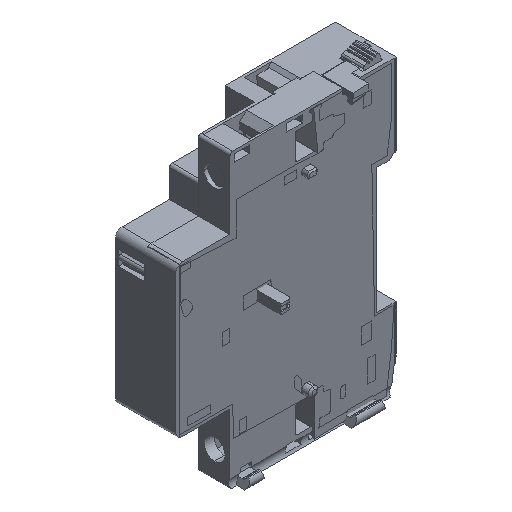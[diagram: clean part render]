
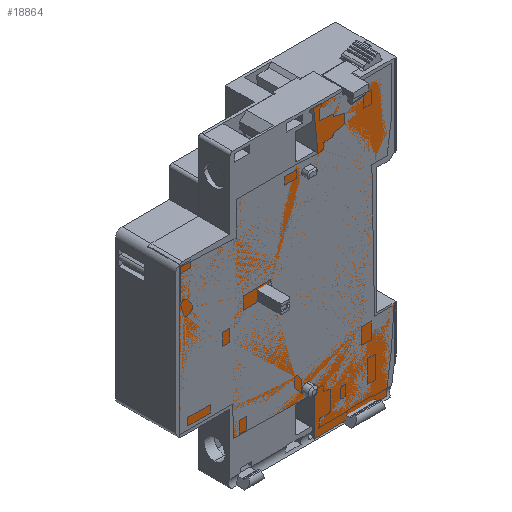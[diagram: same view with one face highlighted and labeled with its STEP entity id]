
A CAD part, isometric view. The second image highlights one B-rep face of the part: STEP entity #18864.
In plain terms, the highlighted planar face has unit normal (0, -1, 0).
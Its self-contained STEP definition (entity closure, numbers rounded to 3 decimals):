
#15240=DIRECTION('',(0.,0.,1.));
#15241=VECTOR('',#15240,9.988);
#15242=CARTESIAN_POINT('',(-17.,0.,17.612));
#15243=LINE('',#15242,#15241);
#15244=DIRECTION('',(-1.,0.,0.));
#15245=VECTOR('',#15244,17.5);
#15246=CARTESIAN_POINT('',(0.5,0.,27.6));
#15247=LINE('',#15246,#15245);
#15248=DIRECTION('',(0.999,0.,-0.043));
#15249=VECTOR('',#15248,6.907);
#15250=CARTESIAN_POINT('',(0.5,0.,27.6));
#15251=LINE('',#15250,#15249);
#15252=DIRECTION('',(0.106,0.,-0.994));
#15253=VECTOR('',#15252,12.269);
#15254=CARTESIAN_POINT('',(6.1,0.,39.5));
#15255=LINE('',#15254,#15253);
#15256=DIRECTION('',(-1.,0.,-0.004));
#15257=VECTOR('',#15256,23.1);
#15258=CARTESIAN_POINT('',(29.2,0.,39.6));
#15259=LINE('',#15258,#15257);
#15260=DIRECTION('',(0.,0.,-1.));
#15261=VECTOR('',#15260,14.533);
#15262=CARTESIAN_POINT('',(29.2,0.,39.6));
#15263=LINE('',#15262,#15261);
#15264=DIRECTION('',(-0.149,0.,-0.989));
#15265=VECTOR('',#15264,8.866);
#15266=CARTESIAN_POINT('',(29.2,0.,25.067));
#15267=LINE('',#15266,#15265);
#15268=DIRECTION('',(-1.,0.,0.));
#15269=VECTOR('',#15268,4.479);
#15270=CARTESIAN_POINT('',(27.879,0.,16.3));
#15271=LINE('',#15270,#15269);
#15272=DIRECTION('',(0.02,0.,-1.));
#15273=VECTOR('',#15272,39.408);
#15274=CARTESIAN_POINT('',(23.4,0.,16.3));
#15275=LINE('',#15274,#15273);
#15276=DIRECTION('',(1.,0.,0.));
#15277=VECTOR('',#15276,5.8);
#15278=CARTESIAN_POINT('',(24.2,0.,-23.1));
#15279=LINE('',#15278,#15277);
#15280=DIRECTION('',(-0.072,0.,-0.997));
#15281=VECTOR('',#15280,11.131);
#15282=CARTESIAN_POINT('',(30.,0.,-23.1));
#15283=LINE('',#15282,#15281);
#15284=DIRECTION('',(-0.139,0.,-0.99));
#15285=VECTOR('',#15284,11.308);
#15286=CARTESIAN_POINT('',(29.2,0.,-34.202));
#15287=LINE('',#15286,#15285);
#15288=DIRECTION('',(1.,0.,0.02));
#15289=VECTOR('',#15288,21.23);
#15290=CARTESIAN_POINT('',(6.4,0.,-45.821));
#15291=LINE('',#15290,#15289);
#15292=DIRECTION('',(0.,0.,-1.));
#15293=VECTOR('',#15292,11.821);
#15294=CARTESIAN_POINT('',(6.4,0.,-34.));
#15295=LINE('',#15294,#15293);
#15296=DIRECTION('',(1.,0.,-0.017));
#15297=VECTOR('',#15296,24.103);
#15298=CARTESIAN_POINT('',(-17.7,0.,-33.6));
#15299=LINE('',#15298,#15297);
#15300=DIRECTION('',(-0.033,0.,0.999));
#15301=VECTOR('',#15300,9.005);
#15302=CARTESIAN_POINT('',(-17.7,0.,-33.6));
#15303=LINE('',#15302,#15301);
#15304=DIRECTION('',(-1.,0.,0.));
#15305=VECTOR('',#15304,15.9);
#15306=CARTESIAN_POINT('',(-18.,0.,-24.6));
#15307=LINE('',#15306,#15305);
#15308=DIRECTION('',(-0.007,0.,-1.));
#15309=VECTOR('',#15308,43.101);
#15310=CARTESIAN_POINT('',(-33.6,0.,18.5));
#15311=LINE('',#15310,#15309);
#15312=DIRECTION('',(0.999,0.,-0.053));
#15313=VECTOR('',#15312,16.624);
#15314=CARTESIAN_POINT('',(-33.6,0.,18.5));
#15315=LINE('',#15314,#15313);
#15955=CARTESIAN_POINT('',(-17.,0.,27.6));
#15956=CARTESIAN_POINT('',(-17.,0.,17.612));
#15957=VERTEX_POINT('',#15955);
#15958=VERTEX_POINT('',#15956);
#15959=CARTESIAN_POINT('',(-33.6,0.,18.5));
#15960=VERTEX_POINT('',#15959);
#15961=CARTESIAN_POINT('',(-33.9,0.,-24.6));
#15962=VERTEX_POINT('',#15961);
#15963=CARTESIAN_POINT('',(-18.,0.,-24.6));
#15964=VERTEX_POINT('',#15963);
#15965=CARTESIAN_POINT('',(-17.7,0.,-33.6));
#15966=VERTEX_POINT('',#15965);
#15967=CARTESIAN_POINT('',(6.4,0.,-45.821));
#15968=CARTESIAN_POINT('',(27.626,0.,-45.4));
#15969=VERTEX_POINT('',#15967);
#15970=VERTEX_POINT('',#15968);
#15971=CARTESIAN_POINT('',(29.2,0.,-34.202));
#15972=VERTEX_POINT('',#15971);
#15973=CARTESIAN_POINT('',(30.,0.,-23.1));
#15974=VERTEX_POINT('',#15973);
#15975=CARTESIAN_POINT('',(24.2,0.,-23.1));
#15976=VERTEX_POINT('',#15975);
#15977=CARTESIAN_POINT('',(23.4,0.,16.3));
#15978=VERTEX_POINT('',#15977);
#15979=CARTESIAN_POINT('',(27.879,0.,16.3));
#15980=VERTEX_POINT('',#15979);
#15981=CARTESIAN_POINT('',(29.2,0.,25.067));
#15982=VERTEX_POINT('',#15981);
#15983=CARTESIAN_POINT('',(29.2,0.,39.6));
#15984=VERTEX_POINT('',#15983);
#15985=CARTESIAN_POINT('',(6.1,0.,39.5));
#15986=VERTEX_POINT('',#15985);
#16219=CARTESIAN_POINT('',(6.4,0.,-34.));
#16220=VERTEX_POINT('',#16219);
#16221=CARTESIAN_POINT('',(7.4,0.,27.3));
#16222=VERTEX_POINT('',#16221);
#16223=CARTESIAN_POINT('',(0.5,0.,27.6));
#16224=VERTEX_POINT('',#16223);
#18822=CARTESIAN_POINT('',(0.,0.,0.));
#18823=DIRECTION('',(0.,-1.,0.));
#18824=DIRECTION('',(0.,0.,1.));
#18825=AXIS2_PLACEMENT_3D('',#18822,#18823,#18824);
#18826=PLANE('',#18825);
#18828=ORIENTED_EDGE('',*,*,#18827,.T.);
#18830=ORIENTED_EDGE('',*,*,#18829,.F.);
#18832=ORIENTED_EDGE('',*,*,#18831,.T.);
#18834=ORIENTED_EDGE('',*,*,#18833,.F.);
#18835=ORIENTED_EDGE('',*,*,#18781,.F.);
#18837=ORIENTED_EDGE('',*,*,#18836,.T.);
#18839=ORIENTED_EDGE('',*,*,#18838,.T.);
#18841=ORIENTED_EDGE('',*,*,#18840,.T.);
#18843=ORIENTED_EDGE('',*,*,#18842,.T.);
#18845=ORIENTED_EDGE('',*,*,#18844,.T.);
#18847=ORIENTED_EDGE('',*,*,#18846,.T.);
#18849=ORIENTED_EDGE('',*,*,#18848,.T.);
#18850=ORIENTED_EDGE('',*,*,#18761,.F.);
#18852=ORIENTED_EDGE('',*,*,#18851,.F.);
#18854=ORIENTED_EDGE('',*,*,#18853,.F.);
#18856=ORIENTED_EDGE('',*,*,#18855,.T.);
#18858=ORIENTED_EDGE('',*,*,#18857,.T.);
#18859=ORIENTED_EDGE('',*,*,#18743,.F.);
#18861=ORIENTED_EDGE('',*,*,#18860,.T.);
#18862=EDGE_LOOP('',(#18828,#18830,#18832,#18834,#18835,#18837,#18839,#18841,
#18843,#18845,#18847,#18849,#18850,#18852,#18854,#18856,#18858,#18859,#18861));
#18863=FACE_OUTER_BOUND('',#18862,.F.);
#18864=ADVANCED_FACE('',(#18863),#18826,.T.);
#18743=EDGE_CURVE('',#15960,#15962,#15311,.T.);
#18761=EDGE_CURVE('',#15969,#15970,#15291,.T.);
#18781=EDGE_CURVE('',#15984,#15986,#15259,.T.);
#18827=EDGE_CURVE('',#15958,#15957,#15243,.T.);
#18829=EDGE_CURVE('',#16224,#15957,#15247,.T.);
#18831=EDGE_CURVE('',#16224,#16222,#15251,.T.);
#18833=EDGE_CURVE('',#15986,#16222,#15255,.T.);
#18836=EDGE_CURVE('',#15984,#15982,#15263,.T.);
#18838=EDGE_CURVE('',#15982,#15980,#15267,.T.);
#18840=EDGE_CURVE('',#15980,#15978,#15271,.T.);
#18842=EDGE_CURVE('',#15978,#15976,#15275,.T.);
#18844=EDGE_CURVE('',#15976,#15974,#15279,.T.);
#18846=EDGE_CURVE('',#15974,#15972,#15283,.T.);
#18848=EDGE_CURVE('',#15972,#15970,#15287,.T.);
#18851=EDGE_CURVE('',#16220,#15969,#15295,.T.);
#18853=EDGE_CURVE('',#15966,#16220,#15299,.T.);
#18855=EDGE_CURVE('',#15966,#15964,#15303,.T.);
#18857=EDGE_CURVE('',#15964,#15962,#15307,.T.);
#18860=EDGE_CURVE('',#15960,#15958,#15315,.T.);
